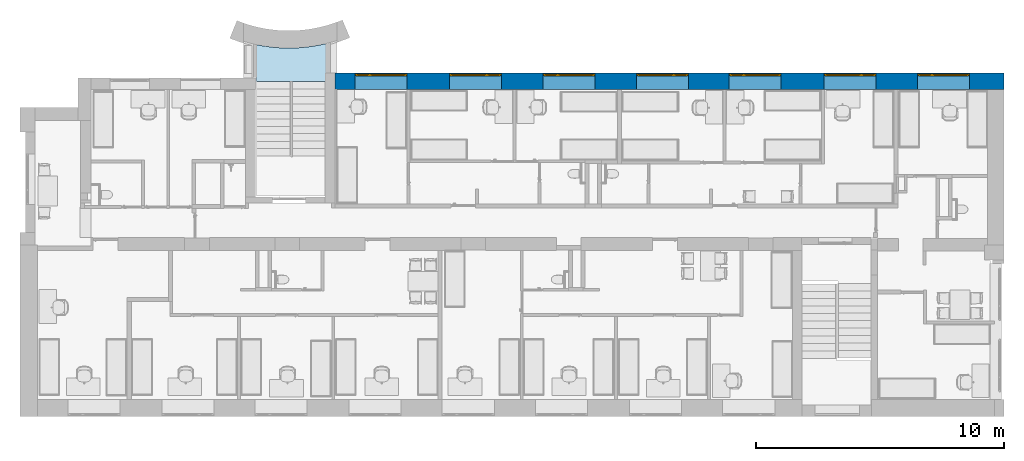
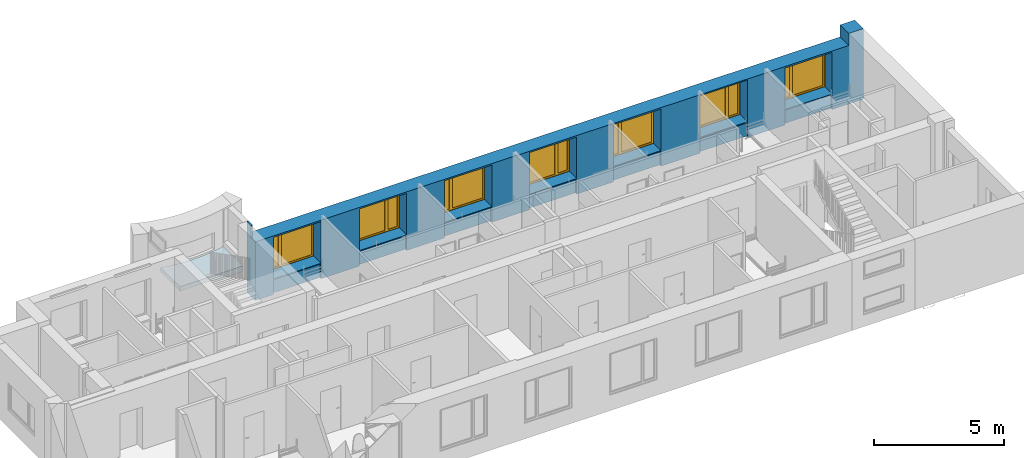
# One storey, part 15 of 48: 7 windows, 1 slab, 1 wall, 7 openings, 1 element without a shape of its own.
"""IFC2X3 building model written with IfcOpenShell, lengths in millimetres."""

from ifc_helpers import new_model, entity, si_unit, converted_unit, derived_unit, direction, frame, frame_2d, origin, place, context, subcontext, project, spatial, rectangle, extrude, faceted_brep, source, transform, mapped, material, material_list, layer, layer_set, type_object, type_shapes, element, fill, aggregate, save


model = new_model("IFC2X3")

# Units and contexts
model_context = context("Model", 3, precision=0.01, world=origin(), true_north=direction((6.12303176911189e-17, 1.0)))
body_context = subcontext(model_context, "Body", "Model", "MODEL_VIEW")
ifc_project = project(units=[si_unit("LENGTHUNIT", "METRE", prefix="MILLI"), si_unit("AREAUNIT", "SQUARE_METRE"), si_unit("VOLUMEUNIT", "CUBIC_METRE"), converted_unit("PLANEANGLEUNIT", "DEGREE", entity("IfcRatioMeasure", 0.0174532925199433), si_unit("PLANEANGLEUNIT", "RADIAN"), dimensions=[0, 0, 0, 0, 0, 0, 0]), si_unit("MASSUNIT", "GRAM", prefix="KILO"), derived_unit("MASSDENSITYUNIT", [(si_unit("MASSUNIT", "GRAM", prefix="KILO"), 1), (si_unit("LENGTHUNIT", "METRE"), -3)]), si_unit("TIMEUNIT", "SECOND"), si_unit("FREQUENCYUNIT", "HERTZ"), si_unit("THERMODYNAMICTEMPERATUREUNIT", "DEGREE_CELSIUS"), derived_unit("THERMALTRANSMITTANCEUNIT", [(si_unit("MASSUNIT", "GRAM", prefix="KILO"), 1), (si_unit("THERMODYNAMICTEMPERATUREUNIT", "KELVIN"), -1), (si_unit("TIMEUNIT", "SECOND"), -3)]), derived_unit("VOLUMETRICFLOWRATEUNIT", [(si_unit("LENGTHUNIT", "METRE"), 3), (si_unit("TIMEUNIT", "SECOND"), -1)]), si_unit("ELECTRICCURRENTUNIT", "AMPERE"), si_unit("ELECTRICVOLTAGEUNIT", "VOLT"), si_unit("POWERUNIT", "WATT"), si_unit("FORCEUNIT", "NEWTON", prefix="KILO"), si_unit("ILLUMINANCEUNIT", "LUX"), si_unit("LUMINOUSFLUXUNIT", "LUMEN"), si_unit("LUMINOUSINTENSITYUNIT", "CANDELA"), derived_unit("USERDEFINED", [(si_unit("MASSUNIT", "GRAM", prefix="KILO"), -1), (si_unit("LENGTHUNIT", "METRE"), -2), (si_unit("TIMEUNIT", "SECOND"), 3), (si_unit("LUMINOUSFLUXUNIT", "LUMEN"), 1)]), derived_unit("LINEARVELOCITYUNIT", [(si_unit("LENGTHUNIT", "METRE"), 1), (si_unit("TIMEUNIT", "SECOND"), -1)]), si_unit("PRESSUREUNIT", "PASCAL"), derived_unit("USERDEFINED", [(si_unit("LENGTHUNIT", "METRE"), -2), (si_unit("MASSUNIT", "GRAM", prefix="KILO"), 1), (si_unit("TIMEUNIT", "SECOND"), -2)]), derived_unit("LINEARFORCEUNIT", [(si_unit("MASSUNIT", "GRAM", prefix="KILO"), 1), (si_unit("LENGTHUNIT", "METRE"), 1), (si_unit("TIMEUNIT", "SECOND"), -2), (si_unit("LENGTHUNIT", "METRE"), -1)]), derived_unit("PLANARFORCEUNIT", [(si_unit("MASSUNIT", "GRAM", prefix="KILO"), 1), (si_unit("LENGTHUNIT", "METRE"), 1), (si_unit("TIMEUNIT", "SECOND"), -2), (si_unit("LENGTHUNIT", "METRE"), -2)])], contexts=[model_context])

# Site, building, storey
site_placement = place(None, origin())
site = spatial("IfcSite", under=ifc_project, at=site_placement, Name="Default", CompositionType="ELEMENT")
building_placement = place(site_placement, origin())
building = spatial("IfcBuilding", under=site, at=building_placement, Name="SMA ARH", CompositionType="ELEMENT")
storey_placement = place(building_placement, frame((0.0, 0.0, 6600.0)))
storey = spatial("IfcBuildingStorey", under=building, at=storey_placement, Name="3 Korrus", CompositionType="ELEMENT", Elevation=6599.99999999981)

# Stair, slab
stair_placement = place(storey_placement, origin())
stair = element("IfcStair", 1, at=stair_placement, inside=storey, Name="Cast-In-Place Stair:Stair", ObjectType="Cast-In-Place Stair:Cast-In-Place Stair", ShapeType="STRAIGHT_RUN_STAIR")
slab_type = type_object("IfcSlabType", Name="Monolithic Landing:300 mm Thickness", PredefinedType="LANDING")
slab_placement = place(stair_placement, frame((8828.40472776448, 12812.0103362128, 0.0)))
slab = element("IfcSlab", 2, at=slab_placement, type_object=slab_type, Name="Cast-In-Place Stair:Stair:912932 Landing 1", ObjectType="Monolithic Landing:300 mm Thickness", PredefinedType="LANDING", context=body_context, shape_type="Brep", body=[
    faceted_brep([(1121.54773639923, 1350.87049032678, 1560.0), (839.554186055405, 1365.78348071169, 1560.0), (558.518087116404, 1393.37824128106, 1560.0), (279.009471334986, 1433.59880096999, 1560.0), (1.5952722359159, 1486.3635795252, 1560.0), (1.5952722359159, 0.0, 1560.0), (1426.59527223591, 0.0, 1560.0), (2801.59527223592, 0.0, 1560.0), (2801.59527223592, 119.518128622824, 1560.0), (2801.59527223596, 1527.59970158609, 1560.0), (2525.85520024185, 1466.68851694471, 1560.0), (2247.65221790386, 1418.25443456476, 1560.0), (1967.55061050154, 1382.3956943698, 1560.0), (1686.11851433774, 1359.18502943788, 1560.0), (1403.92676437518, 1348.6695184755, 1560.0), (1.5952722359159, 1486.3635795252, 1360.0), (1.5952722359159, 0.0, 1360.0), (2801.59527223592, 0.0, 1412.72727272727), (2801.59527223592, 0.0, 1301.32746413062), (2801.59527223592, 119.518128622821, 1360.0), (2801.59527223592, 1527.59970158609, 1360.0), (2525.85520024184, 1466.68851694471, 1360.0), (1967.55061050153, 1382.3956943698, 1360.0), (1686.11851433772, 1359.18502943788, 1360.0), (2247.65221790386, 1418.25443456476, 1360.0), (1403.92676437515, 1348.6695184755, 1360.0), (1121.5477363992, 1350.87049032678, 1360.0), (839.554186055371, 1365.78348071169, 1360.0), (279.009471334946, 1433.59880097, 1360.0), (558.518087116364, 1393.37824128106, 1360.0), (1426.59527223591, 119.518128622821, 1360.0), (1426.59527223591, 0.0, 1360.0), (1426.59527223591, 0.0, 1301.32746413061)], [[[0, 1, 2, 3, 4, 5, 6, 7, 8, 9, 10, 11, 12, 13, 14]], [[5, 4, 15, 16]], [[8, 7, 17, 18, 19, 20, 9]], [[20, 21, 10, 9]], [[22, 23, 13, 12]], [[24, 22, 12, 11]], [[21, 24, 11, 10]], [[25, 14, 13, 23]], [[26, 27, 1, 0]], [[28, 15, 4, 3]], [[29, 28, 3, 2]], [[27, 29, 2, 1]], [[25, 26, 0, 14]], [[21, 20, 19, 30, 31, 16, 15, 28, 29, 27, 26, 25, 23, 22, 24]], [[7, 6, 5, 16, 31, 32, 18, 17]], [[32, 30, 19, 18]], [[32, 31, 30]]]),
])
aggregate(stair, [slab])

# Wall, openings, windows
ifc_material_1 = material(Name="_ol.olev sein")
ifc_layer = layer(ifc_material_1, 665.0)
ifc_layer_set = layer_set([ifc_layer], Name="Basic Wall:Generic - 665mm")
wall_type = type_object("IfcWallType", Name="Basic Wall:Generic - 665mm", PredefinedType="STANDARD", material=ifc_layer_set)
wall_placement = place(storey_placement, frame((38965.0, 12832.4999999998, 0.0), z_axis=(0.0, 0.0, 1.0), x_axis=(-1.0, 0.0, 0.0)))
wall = element("IfcWall", 3, at=wall_placement, inside=storey, type_object=wall_type, Name="Basic Wall:Generic - 665mm", ObjectType="Basic Wall:Generic - 665mm", context=body_context, shape_type="Brep", body=[
    faceted_brep([(7250.0, -332.5, 2695.0), (7250.0, -332.5, 745.0), (5150.0, -332.5, 745.0), (5150.0, -332.5, 2695.0), (1385.0, -332.499999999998, 730.0), (1385.0, -332.499999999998, 2680.0), (3485.0, -332.499999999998, 2680.0), (3485.0, -332.499999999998, 730.0), (8975.0, -332.5, 730.0), (8975.0, -332.5, 2680.0), (11075.0, -332.5, 2680.0), (11075.0, -332.5, 730.0), (14815.0, -332.5, 2680.0), (14815.0, -332.5, 730.0), (12715.0, -332.5, 730.0), (12715.0, -332.5, 2680.0), (16475.0, -332.5, 730.0), (16475.0, -332.5, 2680.0), (18575.0, -332.5, 2680.0), (18575.0, -332.5, 730.0), (22355.0, -332.5, 2680.0), (22355.0, -332.5, 730.0), (20255.0, -332.5, 730.0), (20255.0, -332.5, 2680.0), (24055.0, -332.5, 730.0), (24055.0, -332.5, 2680.0), (26155.0, -332.5, 2680.0), (26155.0, -332.5, 730.0), (0.0, -332.5, 0.0), (26895.0, -332.5, 0.0), (26965.0, -332.5, 0.0), (26965.0, -332.5, 3310.0), (26895.0, -332.5, 3310.0), (26895.0, -332.5, 2746.64699592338), (650.0, -332.5, 2746.64699592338), (650.0, -332.5, 3310.0), (0.0, -332.5, 3310.0), (7250.0, 332.5, 745.0), (7250.0, 332.5, 2695.0), (5150.0, 332.5, 2695.0), (5150.0, 332.5, 745.0), (1385.0, 332.500000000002, 2680.0), (1385.0, 332.500000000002, 730.0), (3485.0, 332.500000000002, 730.0), (3485.0, 332.500000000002, 2680.0), (8975.0, 332.5, 2680.0), (8975.0, 332.5, 730.0), (11075.0, 332.5, 730.0), (11075.0, 332.5, 2680.0), (14815.0, 332.5, 730.0), (14815.0, 332.5, 2680.0), (12715.0, 332.5, 2680.0), (12715.0, 332.5, 730.0), (16475.0, 332.5, 2680.0), (16475.0, 332.5, 730.0), (18575.0, 332.5, 730.0), (18575.0, 332.5, 2680.0), (22355.0, 332.5, 730.0), (22355.0, 332.5, 2680.0), (20255.0, 332.5, 2680.0), (20255.0, 332.5, 730.0), (24055.0, 332.5, 2680.0), (24055.0, 332.5, 730.0), (26155.0, 332.5, 730.0), (26155.0, 332.5, 2680.0), (0.0, 332.5, 0.0), (0.0, 332.5, 3310.0), (650.0, 332.5, 3310.0), (650.0, 332.5, 2746.64699592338), (26965.0, 332.5, 2746.64699592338), (26965.0, 332.5, 0.0), (26963.2500000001, 332.5, 0.0), (26900.7500000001, 332.5, 0.0), (26155.0, 332.5, 0.0), (26155.0, 332.5, 697.825710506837), (24055.0, 332.5, 697.825710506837), (24055.0, 332.5, 0.0), (23949.5, 332.5, 0.0), (22355.0, 332.5, 0.0), (22355.0, 332.5, 697.825710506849), (20255.0, 332.5, 697.825710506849), (20255.0, 332.5, 0.0), (19779.5, 332.5, 0.0), (19663.5, 332.500000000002, 0.0), (18575.0, 332.5, 0.0), (18575.0, 332.5, 697.825710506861), (16475.0, 332.5, 697.825710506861), (16475.0, 332.5, 0.0), (15573.75, 332.5, 0.0), (15411.25, 332.5, 0.0), (14815.0, 332.5, 0.0), (14815.0, 332.5, 697.825710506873), (12715.0, 332.5, 697.825710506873), (12715.0, 332.5, 0.0), (11321.5, 332.5, 0.0), (11205.5, 332.5, 0.0), (11075.0, 332.5, 0.0), (11075.0, 332.5, 697.825710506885), (8975.0, 332.5, 697.825710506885), (8975.0, 332.5, 0.0), (7355.50000000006, 332.5, 0.0), (7250.0, 332.5, 0.0), (7250.0, 332.5, 697.825710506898), (5150.0, 332.5, 697.825710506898), (5150.0, 332.5, 0.0), (4420.75000000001, 332.5, 0.0), (4258.25, 332.5, 0.0), (3485.0, 332.500000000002, 0.0), (3485.0, 332.500000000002, 697.82571050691), (1385.0, 332.500000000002, 697.82571050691), (1385.0, 332.500000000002, 0.0), (650.0, 332.5, 0.0), (1385.0, 232.499999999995, 0.0), (3485.0, 232.499999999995, 0.0), (5150.0, 232.499999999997, 0.0), (7250.0, 232.499999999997, 0.0), (8975.0, 232.499999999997, 0.0), (11075.0, 232.499999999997, 0.0), (12715.0, 232.499999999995, 0.0), (14815.0, 232.499999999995, 0.0), (16475.0, 232.499999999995, 0.0), (18575.0, 232.499999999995, 0.0), (20255.0, 232.499999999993, 0.0), (22355.0, 232.499999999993, 0.0), (24055.0, 232.499999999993, 0.0), (26155.0, 232.499999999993, 0.0), (26965.0, -112.49999999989, 3310.0), (26965.0, 0.0, 3310.0), (26895.0, 0.0, 3310.0), (26895.0, -112.49999999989, 3310.0), (26895.0, 0.0, 2746.64699592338), (26965.0, 0.0, 2746.64699592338), (24055.0, 232.499999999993, 697.825710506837), (26155.0, 232.499999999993, 697.825710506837), (20255.0, 232.499999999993, 697.825710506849), (22355.0, 232.499999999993, 697.825710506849), (16475.0, 232.499999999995, 697.825710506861), (18575.0, 232.499999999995, 697.825710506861), (12715.0, 232.499999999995, 697.825710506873), (14815.0, 232.499999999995, 697.825710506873), (8975.0, 232.499999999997, 697.825710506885), (11075.0, 232.499999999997, 697.825710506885), (5150.0, 232.499999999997, 697.825710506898), (7250.0, 232.499999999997, 697.825710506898), (1385.0, 232.499999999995, 697.82571050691), (3485.0, 232.499999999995, 697.82571050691)], [[[0, 1, 2, 3], [4, 5, 6, 7], [8, 9, 10, 11], [12, 13, 14, 15], [16, 17, 18, 19], [20, 21, 22, 23], [24, 25, 26, 27], [28, 29, 30, 31, 32, 33, 34, 35, 36]], [[37, 38, 39, 40], [41, 42, 43, 44], [45, 46, 47, 48], [49, 50, 51, 52], [53, 54, 55, 56], [57, 58, 59, 60], [61, 62, 63, 64], [65, 66, 67, 68, 69, 70, 71, 72, 73, 74, 75, 76, 77, 78, 79, 80, 81, 82, 83, 84, 85, 86, 87, 88, 89, 90, 91, 92, 93, 94, 95, 96, 97, 98, 99, 100, 101, 102, 103, 104, 105, 106, 107, 108, 109, 110, 111]], [[30, 29, 28, 65, 111, 110, 112, 113, 107, 106, 105, 104, 114, 115, 101, 100, 99, 116, 117, 96, 95, 94, 93, 118, 119, 90, 89, 88, 87, 120, 121, 84, 83, 82, 81, 122, 123, 78, 77, 76, 124, 125, 73, 72, 71, 70]], [[32, 31, 126, 127, 128, 129]], [[38, 37, 1, 0]], [[39, 38, 0, 3]], [[40, 39, 3, 2]], [[37, 40, 2, 1]], [[5, 4, 42, 41]], [[6, 5, 41, 44]], [[7, 6, 44, 43]], [[4, 7, 43, 42]], [[9, 8, 46, 45]], [[10, 9, 45, 48]], [[11, 10, 48, 47]], [[8, 11, 47, 46]], [[50, 49, 13, 12]], [[51, 50, 12, 15]], [[52, 51, 15, 14]], [[49, 52, 14, 13]], [[17, 16, 54, 53]], [[18, 17, 53, 56]], [[19, 18, 56, 55]], [[16, 19, 55, 54]], [[58, 57, 21, 20]], [[59, 58, 20, 23]], [[60, 59, 23, 22]], [[57, 60, 22, 21]], [[25, 24, 62, 61]], [[26, 25, 61, 64]], [[27, 26, 64, 63]], [[24, 27, 63, 62]], [[68, 34, 33, 130, 131, 69]], [[28, 36, 66, 65]], [[30, 70, 69, 131, 127, 126, 31]], [[131, 130, 128, 127]], [[130, 33, 32, 129, 128]], [[132, 133, 125, 124]], [[75, 132, 124, 76]], [[133, 74, 73, 125]], [[133, 132, 75, 74]], [[134, 135, 123, 122]], [[80, 134, 122, 81]], [[135, 79, 78, 123]], [[135, 134, 80, 79]], [[136, 137, 121, 120]], [[86, 136, 120, 87]], [[137, 85, 84, 121]], [[137, 136, 86, 85]], [[138, 139, 119, 118]], [[92, 138, 118, 93]], [[139, 91, 90, 119]], [[139, 138, 92, 91]], [[140, 141, 117, 116]], [[98, 140, 116, 99]], [[141, 97, 96, 117]], [[141, 140, 98, 97]], [[142, 143, 115, 114]], [[103, 142, 114, 104]], [[143, 102, 101, 115]], [[143, 142, 103, 102]], [[144, 145, 113, 112]], [[109, 144, 112, 110]], [[145, 108, 107, 113]], [[145, 144, 109, 108]], [[34, 68, 67, 35]], [[66, 36, 35, 67]]], outer=[[False, False, False, False, False, False, False, True], [False, False, False, False, False, False, False, True], [True], [True], [True], [True], [True], [True], [True], [True], [True], [True], [True], [True], [True], [True], [True], [True], [True], [True], [True], [True], [True], [True], [True], [True], [True], [True], [True], [True], [True], [True], [True], [True], [True], [True], [True], [True], [True], [True], [True], [True], [True], [True], [True], [True], [True], [True], [True], [True], [True], [True], [True], [True], [True], [True], [True], [True], [True], [True], [True], [True], [True], [True], [True], [True], [True]]),
])
opening_1_placement = place(wall_placement, frame((7250.0, 332.499999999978, 745.0)))
opening_1 = element("IfcOpeningElement", 4, at=opening_1_placement, cuts=wall, Name="SMA_W2, 2-jaotus:A-00 - 2100x1900:1", ObjectType="Opening", context=body_context, shape_type="SweptSolid", body=[
    extrude(rectangle(XDim=1950.0, YDim=2100.0, at=frame_2d((975.0, 1050.0), x_axis=(1.0, 0.0))), frame((0.0, 0.0, 0.0), z_axis=(0.0, -1.0, 0.0), x_axis=(0.0, 0.0, 1.0)), (0.0, 0.0, 1.0), 665.0),
])
opening_2_placement = place(wall_placement, frame((3485.0, 332.499999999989, 730.0)))
opening_2 = element("IfcOpeningElement", 5, at=opening_2_placement, cuts=wall, Name="SMA_W2, 2-jaotus:A-00 - 2100x1900:1", ObjectType="Opening", context=body_context, shape_type="SweptSolid", body=[
    extrude(rectangle(XDim=1950.0, YDim=2100.0, at=frame_2d((975.0, 1050.0), x_axis=(1.0, 0.0))), frame((0.0, 0.0, 0.0), z_axis=(0.0, -1.0, 0.0), x_axis=(0.0, 0.0, 1.0)), (0.0, 0.0, 1.0), 665.0),
])
opening_3_placement = place(wall_placement, frame((11075.0, 332.499999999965, 730.0)))
opening_3 = element("IfcOpeningElement", 6, at=opening_3_placement, cuts=wall, Name="SMA_W2, 2-jaotus:A-00 - 2100x1900:1", ObjectType="Opening", context=body_context, shape_type="SweptSolid", body=[
    extrude(rectangle(XDim=1950.0, YDim=2100.0, at=frame_2d((975.0, 1050.0), x_axis=(1.0, 0.0))), frame((0.0, 0.0, 0.0), z_axis=(0.0, -1.0, 0.0), x_axis=(0.0, 0.0, 1.0)), (0.0, 0.0, 1.0), 665.0),
])
opening_4_placement = place(wall_placement, frame((14815.0, 332.499999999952, 730.0)))
opening_4 = element("IfcOpeningElement", 7, at=opening_4_placement, cuts=wall, Name="SMA_W2, 2-jaotus:A-00 - 2100x1900:1", ObjectType="Opening", context=body_context, shape_type="SweptSolid", body=[
    extrude(rectangle(XDim=1950.0, YDim=2100.0, at=frame_2d((975.0, 1050.0), x_axis=(1.0, 0.0))), frame((0.0, 0.0, 0.0), z_axis=(0.0, -1.0, 0.0), x_axis=(0.0, 0.0, 1.0)), (0.0, 0.0, 1.0), 665.0),
])
opening_5_placement = place(wall_placement, frame((18575.0, 332.499999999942, 730.0)))
opening_5 = element("IfcOpeningElement", 8, at=opening_5_placement, cuts=wall, Name="SMA_W2, 2-jaotus:A-00 - 2100x1900:1", ObjectType="Opening", context=body_context, shape_type="SweptSolid", body=[
    extrude(rectangle(XDim=1950.0, YDim=2100.0, at=frame_2d((975.0, 1050.0), x_axis=(1.0, 0.0))), frame((0.0, 0.0, 0.0), z_axis=(0.0, -1.0, 0.0), x_axis=(0.0, 0.0, 1.0)), (0.0, 0.0, 1.0), 665.0),
])
opening_6_placement = place(wall_placement, frame((22355.0, 332.499999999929, 730.0)))
opening_6 = element("IfcOpeningElement", 9, at=opening_6_placement, cuts=wall, Name="SMA_W2, 2-jaotus:A-00 - 2100x1900:1", ObjectType="Opening", context=body_context, shape_type="SweptSolid", body=[
    extrude(rectangle(XDim=1950.0, YDim=2100.0, at=frame_2d((975.0, 1050.0), x_axis=(1.0, 0.0))), frame((0.0, 0.0, 0.0), z_axis=(0.0, -1.0, 0.0), x_axis=(0.0, 0.0, 1.0)), (0.0, 0.0, 1.0), 665.0),
])
opening_7_placement = place(wall_placement, frame((26155.0, 332.499999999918, 730.0)))
opening_7 = element("IfcOpeningElement", 10, at=opening_7_placement, cuts=wall, Name="SMA_W2, 2-jaotus:A-00 - 2100x1900:1", ObjectType="Opening", context=body_context, shape_type="SweptSolid", body=[
    extrude(rectangle(XDim=1950.0, YDim=2100.0, at=frame_2d((975.0, 1050.0), x_axis=(1.0, 0.0))), frame((0.0, 0.0, 0.0), z_axis=(0.0, -1.0, 0.0), x_axis=(0.0, 0.0, 1.0)), (0.0, 0.0, 1.0), 665.0),
])
ifc_material_2 = material(Name="Glass")
ifc_material_3 = material(Name="Hall")
ifc_material_list_1 = material_list([ifc_material_2, ifc_material_3])
ifc_material_4 = material(Name="<Unnamed>")
ifc_material_list_2 = material_list([ifc_material_3, ifc_material_4, ifc_material_3, ifc_material_4, ifc_material_2])
window_style_1 = type_object("IfcWindowStyle", Name="SMA_W2, 2-jaotus:A-00 - 2100x1900", ConstructionType="NOTDEFINED", OperationType="NOTDEFINED", ParameterTakesPrecedence=False, Sizeable=False, material=ifc_material_list_2)
shared_shape_1 = source(origin(), body_context, "Body", "Brep", [
    faceted_brep([(105.0, 555.0, 1845.0), (105.0, 555.0, 105.0), (1440.0, 555.0, 105.0), (1440.0, 555.0, 1845.0), (105.0, 575.0, 1845.0), (105.0, 575.0, 105.0), (1440.0, 575.0, 105.0), (1440.0, 575.0, 1845.0)], [[[0, 1, 2, 3]], [[1, 0, 4, 5]], [[2, 1, 5, 6]], [[3, 2, 6, 7]], [[4, 7, 6, 5]], [[0, 3, 7, 4]]]),
    faceted_brep([(1580.0, 555.0, 105.0), (1995.0, 555.0, 105.0), (1995.0, 555.0, 1845.0), (1580.0, 555.0, 1845.0), (1580.0, 575.0, 105.0), (1995.0, 575.0, 105.0), (1995.0, 575.0, 1845.0), (1580.0, 575.0, 1845.0)], [[[0, 1, 2, 3]], [[1, 0, 4, 5]], [[2, 1, 5, 6]], [[0, 3, 7, 4]], [[4, 7, 6, 5]], [[3, 2, 6, 7]]]),
    faceted_brep([(35.0, 540.0, 35.0), (1510.0, 540.0, 35.0), (1510.0, 540.0, 1915.0), (35.0, 540.0, 1915.0), (1440.0, 540.0, 1845.0), (1440.0, 540.0, 105.0), (105.0, 540.0, 105.0), (105.0, 540.0, 1845.0), (35.0, 590.0, 35.0), (1510.0, 590.0, 35.0), (1510.0, 590.0, 1915.0), (35.0, 590.0, 1915.0), (1440.0, 590.0, 1845.0), (1440.0, 590.0, 105.0), (105.0, 590.0, 105.0), (105.0, 590.0, 1845.0)], [[[0, 1, 2, 3], [4, 5, 6, 7]], [[1, 0, 8, 9]], [[2, 1, 9, 10]], [[0, 3, 11, 8]], [[5, 4, 12, 13]], [[6, 5, 13, 14]], [[7, 6, 14, 15]], [[8, 11, 10, 9], [12, 15, 14, 13]], [[3, 2, 10, 11]], [[4, 7, 15, 12]]]),
    faceted_brep([(1510.0, 540.0, 35.0), (2065.0, 540.0, 35.0), (2065.0, 540.0, 1915.0), (1510.0, 540.0, 1915.0), (1995.0, 540.0, 1845.0), (1995.0, 540.0, 105.0), (1580.0, 540.0, 105.0), (1580.0, 540.0, 1845.0), (1510.0, 590.0, 35.0), (2065.0, 590.0, 35.0), (2065.0, 590.0, 1915.0), (1510.0, 590.0, 1915.0), (1995.0, 590.0, 1845.0), (1995.0, 590.0, 105.0), (1580.0, 590.0, 105.0), (1580.0, 590.0, 1845.0)], [[[0, 1, 2, 3], [4, 5, 6, 7]], [[1, 0, 8, 9]], [[2, 1, 9, 10]], [[0, 3, 11, 8]], [[5, 4, 12, 13]], [[6, 5, 13, 14]], [[7, 6, 14, 15]], [[8, 11, 10, 9], [12, 15, 14, 13]], [[3, 2, 10, 11]], [[4, 7, 15, 12]]]),
    faceted_brep([(0.0, 565.0, 0.0), (2100.0, 565.0, 0.0), (2100.0, 565.0, 1950.0), (0.0, 565.0, 1950.0), (2065.0, 565.0, 35.0), (1510.0, 565.0, 35.0), (1510.0, 565.0, 1915.0), (2065.0, 565.0, 1915.0), (70.0, 565.0, 1880.0), (1475.0, 565.0, 1880.0), (1475.0, 565.0, 70.0), (70.0, 565.0, 70.0), (0.0, 615.0, 0.0), (2100.0, 615.0, 0.0), (2100.0, 615.0, 1950.0), (0.0, 615.0, 1950.0), (1475.0, 615.0, 1880.0), (1475.0, 615.0, 70.0), (70.0, 615.0, 70.0), (70.0, 615.0, 1880.0), (2065.0, 590.0, 35.0), (1510.0, 590.0, 35.0), (1510.0, 590.0, 1915.0), (2065.0, 590.0, 1915.0), (1545.0, 615.0, 1880.0), (1545.0, 615.0, 70.0), (2030.0, 615.0, 70.0), (2030.0, 615.0, 1880.0), (1545.0, 590.0, 1880.0), (1545.0, 590.0, 70.0), (2030.0, 590.0, 70.0), (2030.0, 590.0, 1880.0)], [[[0, 1, 2, 3], [4, 5, 6, 7], [8, 9, 10, 11]], [[1, 0, 12, 13]], [[2, 1, 13, 14]], [[0, 3, 15, 12]], [[10, 9, 16, 17]], [[11, 10, 17, 18]], [[8, 11, 18, 19]], [[20, 21, 5, 4]], [[21, 22, 6, 5]], [[23, 20, 4, 7]], [[12, 15, 14, 13], [19, 18, 17, 16], [24, 25, 26, 27]], [[25, 24, 28, 29]], [[26, 25, 29, 30]], [[27, 26, 30, 31]], [[21, 20, 23, 22], [28, 31, 30, 29]], [[3, 2, 14, 15]], [[9, 8, 19, 16]], [[22, 23, 7, 6]], [[24, 27, 31, 28]]]),
])
type_shapes(window_style_1, [shared_shape_1])
window_1_placement = place(opening_1_placement, frame((0.0, 0.0, 0.0), z_axis=(0.0, 0.0, 1.0), x_axis=(-1.0, 0.0, 0.0)))
window_1 = element("IfcWindow", 11, at=window_1_placement, inside=storey, type_object=window_style_1, material=ifc_material_list_1, Name="SMA_W2, 2-jaotus:A-00 - 2100x1900", ObjectType="SMA_W2, 2-jaotus:A-00 - 2100x1900", OverallHeight=1950.0, OverallWidth=2100.0, context=body_context, shape_type="MappedRepresentation", body=[
    mapped(shared_shape_1, transform((0.0, 0.0, 0.0), scale=1.0)),
])
fill(opening_1, window_1)
ifc_material_list_3 = material_list([ifc_material_2, ifc_material_3])
window_2_placement = place(opening_4_placement, frame((0.0, 0.0, 0.0), z_axis=(0.0, 0.0, 1.0), x_axis=(-1.0, 0.0, 0.0)))
window_2 = element("IfcWindow", 12, at=window_2_placement, inside=storey, type_object=window_style_1, material=ifc_material_list_3, Name="SMA_W2, 2-jaotus:A-00 - 2100x1900", ObjectType="SMA_W2, 2-jaotus:A-00 - 2100x1900", OverallHeight=1950.0, OverallWidth=2100.0, context=body_context, shape_type="MappedRepresentation", body=[
    mapped(shared_shape_1, transform((0.0, 0.0, 0.0), scale=1.0)),
])
fill(opening_4, window_2)
ifc_material_list_4 = material_list([ifc_material_2, ifc_material_3])
window_3_placement = place(opening_6_placement, frame((0.0, 0.0, 0.0), z_axis=(0.0, 0.0, 1.0), x_axis=(-1.0, 0.0, 0.0)))
window_3 = element("IfcWindow", 13, at=window_3_placement, inside=storey, type_object=window_style_1, material=ifc_material_list_4, Name="SMA_W2, 2-jaotus:A-00 - 2100x1900", ObjectType="SMA_W2, 2-jaotus:A-00 - 2100x1900", OverallHeight=1950.0, OverallWidth=2100.0, context=body_context, shape_type="MappedRepresentation", body=[
    mapped(shared_shape_1, transform((0.0, 0.0, 0.0), scale=1.0)),
])
fill(opening_6, window_3)
ifc_material_list_5 = material_list([ifc_material_2, ifc_material_3])
ifc_material_list_6 = material_list([ifc_material_3, ifc_material_4, ifc_material_3, ifc_material_4, ifc_material_2])
window_style_2 = type_object("IfcWindowStyle", Name="SMA_W2, 2-jaotus:A-00 - 2100x1900", ConstructionType="NOTDEFINED", OperationType="NOTDEFINED", ParameterTakesPrecedence=False, Sizeable=False, material=ifc_material_list_6)
shared_shape_2 = source(origin(), body_context, "Body", "Brep", [
    faceted_brep([(1995.0, 555.0, 1845.0), (660.0, 555.0, 1845.0), (660.0, 555.0, 105.0), (1995.0, 555.0, 105.0), (1995.0, 575.0, 105.0), (1995.0, 575.0, 1845.0), (660.0, 575.0, 105.0), (660.0, 575.0, 1845.0)], [[[0, 1, 2, 3]], [[3, 4, 5, 0]], [[2, 6, 4, 3]], [[1, 7, 6, 2]], [[5, 4, 6, 7]], [[0, 5, 7, 1]]]),
    faceted_brep([(520.0, 555.0, 105.0), (520.0, 555.0, 1845.0), (105.0, 555.0, 1845.0), (105.0, 555.0, 105.0), (105.0, 575.0, 105.0), (520.0, 575.0, 105.0), (105.0, 575.0, 1845.0), (520.0, 575.0, 1845.0)], [[[0, 1, 2, 3]], [[3, 4, 5, 0]], [[2, 6, 4, 3]], [[0, 5, 7, 1]], [[5, 4, 6, 7]], [[1, 7, 6, 2]]]),
    faceted_brep([(2065.0, 540.0, 35.0), (2065.0, 540.0, 1915.0), (590.0, 540.0, 1915.0), (590.0, 540.0, 35.0), (660.0, 540.0, 1845.0), (1995.0, 540.0, 1845.0), (1995.0, 540.0, 105.0), (660.0, 540.0, 105.0), (590.0, 590.0, 35.0), (2065.0, 590.0, 35.0), (590.0, 590.0, 1915.0), (2065.0, 590.0, 1915.0), (660.0, 590.0, 105.0), (660.0, 590.0, 1845.0), (1995.0, 590.0, 105.0), (1995.0, 590.0, 1845.0)], [[[0, 1, 2, 3], [4, 5, 6, 7]], [[3, 8, 9, 0]], [[2, 10, 8, 3]], [[0, 9, 11, 1]], [[7, 12, 13, 4]], [[6, 14, 12, 7]], [[5, 15, 14, 6]], [[9, 8, 10, 11], [13, 12, 14, 15]], [[1, 11, 10, 2]], [[4, 13, 15, 5]]]),
    faceted_brep([(590.0, 540.0, 35.0), (590.0, 540.0, 1915.0), (35.0, 540.0, 1915.0), (35.0, 540.0, 35.0), (105.0, 540.0, 1845.0), (520.0, 540.0, 1845.0), (520.0, 540.0, 105.0), (105.0, 540.0, 105.0), (35.0, 590.0, 35.0), (590.0, 590.0, 35.0), (35.0, 590.0, 1915.0), (590.0, 590.0, 1915.0), (105.0, 590.0, 105.0), (105.0, 590.0, 1845.0), (520.0, 590.0, 105.0), (520.0, 590.0, 1845.0)], [[[0, 1, 2, 3], [4, 5, 6, 7]], [[3, 8, 9, 0]], [[2, 10, 8, 3]], [[0, 9, 11, 1]], [[7, 12, 13, 4]], [[6, 14, 12, 7]], [[5, 15, 14, 6]], [[9, 8, 10, 11], [13, 12, 14, 15]], [[1, 11, 10, 2]], [[4, 13, 15, 5]]]),
    faceted_brep([(35.0, 565.0, 35.0), (35.0, 565.0, 1915.0), (590.0, 565.0, 1915.0), (590.0, 565.0, 35.0), (2030.0, 565.0, 1880.0), (2030.0, 565.0, 70.0), (625.0, 565.0, 70.0), (625.0, 565.0, 1880.0), (2100.0, 565.0, 0.0), (2100.0, 565.0, 1950.0), (0.0, 565.0, 1950.0), (0.0, 565.0, 0.0), (0.0, 615.0, 0.0), (2100.0, 615.0, 0.0), (0.0, 615.0, 1950.0), (2100.0, 615.0, 1950.0), (625.0, 615.0, 70.0), (625.0, 615.0, 1880.0), (2030.0, 615.0, 70.0), (2030.0, 615.0, 1880.0), (35.0, 590.0, 35.0), (590.0, 590.0, 35.0), (590.0, 590.0, 1915.0), (35.0, 590.0, 1915.0), (555.0, 615.0, 1880.0), (70.0, 615.0, 1880.0), (70.0, 615.0, 70.0), (555.0, 615.0, 70.0), (555.0, 590.0, 70.0), (555.0, 590.0, 1880.0), (70.0, 590.0, 70.0), (70.0, 590.0, 1880.0)], [[[0, 1, 2, 3], [4, 5, 6, 7], [8, 9, 10, 11]], [[11, 12, 13, 8]], [[10, 14, 12, 11]], [[8, 13, 15, 9]], [[6, 16, 17, 7]], [[5, 18, 16, 6]], [[4, 19, 18, 5]], [[20, 0, 3, 21]], [[21, 3, 2, 22]], [[23, 1, 0, 20]], [[13, 12, 14, 15], [19, 17, 16, 18], [24, 25, 26, 27]], [[27, 28, 29, 24]], [[26, 30, 28, 27]], [[25, 31, 30, 26]], [[21, 22, 23, 20], [29, 28, 30, 31]], [[9, 15, 14, 10]], [[7, 17, 19, 4]], [[22, 2, 1, 23]], [[24, 29, 31, 25]]], outer=[[False, False, True], [True], [True], [True], [True], [True], [True], [True], [True], [True], [True, False, False], [True], [True], [True], [True, False], [True], [True], [True], [True]]),
])
type_shapes(window_style_2, [shared_shape_2])
window_4_placement = place(opening_2_placement, frame((0.0, 0.0, 0.0), z_axis=(0.0, 0.0, 1.0), x_axis=(-1.0, 0.0, 0.0)))
window_4 = element("IfcWindow", 14, at=window_4_placement, inside=storey, type_object=window_style_2, material=ifc_material_list_5, Name="SMA_W2, 2-jaotus:A-00 - 2100x1900", ObjectType="SMA_W2, 2-jaotus:A-00 - 2100x1900", OverallHeight=1950.0, OverallWidth=2100.0, context=body_context, shape_type="MappedRepresentation", body=[
    mapped(shared_shape_2, transform((0.0, 0.0, 0.0), scale=1.0)),
])
fill(opening_2, window_4)
ifc_material_list_7 = material_list([ifc_material_2, ifc_material_3])
window_5_placement = place(opening_3_placement, frame((0.0, 0.0, 0.0), z_axis=(0.0, 0.0, 1.0), x_axis=(-1.0, 0.0, 0.0)))
window_5 = element("IfcWindow", 15, at=window_5_placement, inside=storey, type_object=window_style_2, material=ifc_material_list_7, Name="SMA_W2, 2-jaotus:A-00 - 2100x1900", ObjectType="SMA_W2, 2-jaotus:A-00 - 2100x1900", OverallHeight=1950.0, OverallWidth=2100.0, context=body_context, shape_type="MappedRepresentation", body=[
    mapped(shared_shape_2, transform((0.0, 0.0, 0.0), scale=1.0)),
])
fill(opening_3, window_5)
ifc_material_list_8 = material_list([ifc_material_2, ifc_material_3])
window_6_placement = place(opening_5_placement, frame((0.0, 0.0, 0.0), z_axis=(0.0, 0.0, 1.0), x_axis=(-1.0, 0.0, 0.0)))
window_6 = element("IfcWindow", 16, at=window_6_placement, inside=storey, type_object=window_style_2, material=ifc_material_list_8, Name="SMA_W2, 2-jaotus:A-00 - 2100x1900", ObjectType="SMA_W2, 2-jaotus:A-00 - 2100x1900", OverallHeight=1950.0, OverallWidth=2100.0, context=body_context, shape_type="MappedRepresentation", body=[
    mapped(shared_shape_2, transform((0.0, 0.0, 0.0), scale=1.0)),
])
fill(opening_5, window_6)
ifc_material_list_9 = material_list([ifc_material_2, ifc_material_3])
window_7_placement = place(opening_7_placement, frame((0.0, 0.0, 0.0), z_axis=(0.0, 0.0, 1.0), x_axis=(-1.0, 0.0, 0.0)))
window_7 = element("IfcWindow", 17, at=window_7_placement, inside=storey, type_object=window_style_2, material=ifc_material_list_9, Name="SMA_W2, 2-jaotus:A-00 - 2100x1900", ObjectType="SMA_W2, 2-jaotus:A-00 - 2100x1900", OverallHeight=1950.0, OverallWidth=2100.0, context=body_context, shape_type="MappedRepresentation", body=[
    mapped(shared_shape_2, transform((0.0, 0.0, 0.0), scale=1.0)),
])
fill(opening_7, window_7)

save(model, "model.ifc")
